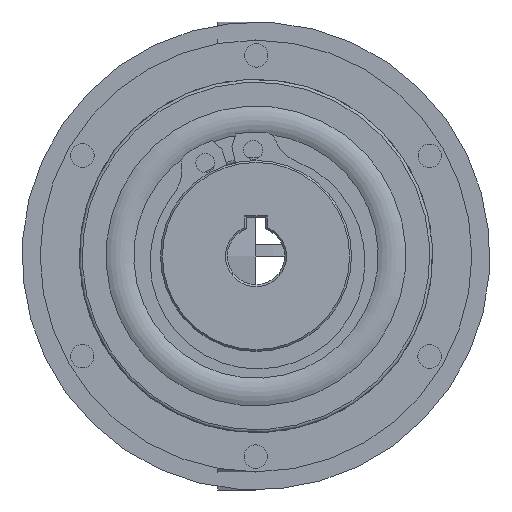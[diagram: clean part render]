
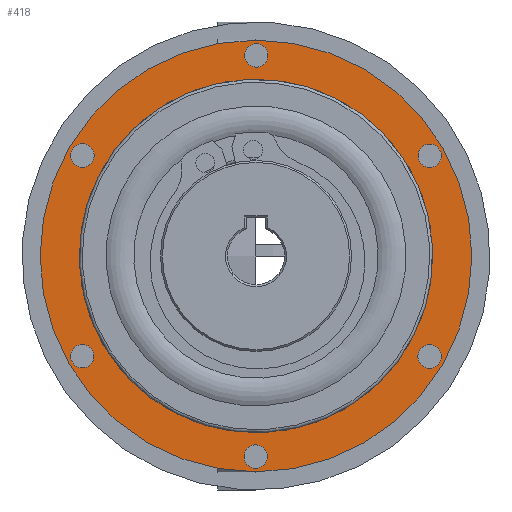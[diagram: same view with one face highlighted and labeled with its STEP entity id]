
A CAD part, left-side view. The second image highlights one B-rep face of the part: STEP entity #418.
In plain terms, the highlighted planar face has unit normal (-1, 0, 0).
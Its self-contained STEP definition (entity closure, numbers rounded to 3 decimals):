
#418 = ADVANCED_FACE( '', ( #691, #692, #693, #694, #695, #696, #697, #698 ), #699, .T. );
#691 = FACE_OUTER_BOUND( '', #955, .T. );
#692 = FACE_BOUND( '', #956, .T. );
#693 = FACE_BOUND( '', #957, .T. );
#694 = FACE_BOUND( '', #958, .T. );
#695 = FACE_BOUND( '', #959, .T. );
#696 = FACE_BOUND( '', #960, .T. );
#697 = FACE_BOUND( '', #961, .T. );
#698 = FACE_BOUND( '', #962, .T. );
#699 = PLANE( '', #963 );
#955 = EDGE_LOOP( '', ( #1485 ) );
#956 = EDGE_LOOP( '', ( #1486 ) );
#957 = EDGE_LOOP( '', ( #1487 ) );
#958 = EDGE_LOOP( '', ( #1488 ) );
#959 = EDGE_LOOP( '', ( #1489 ) );
#960 = EDGE_LOOP( '', ( #1490 ) );
#961 = EDGE_LOOP( '', ( #1491 ) );
#962 = EDGE_LOOP( '', ( #1492 ) );
#963 = AXIS2_PLACEMENT_3D( '', #1493, #1494, #1495 );
#1485 = ORIENTED_EDGE( '', *, *, #1818, .T. );
#1486 = ORIENTED_EDGE( '', *, *, #1826, .T. );
#1487 = ORIENTED_EDGE( '', *, *, #1827, .T. );
#1488 = ORIENTED_EDGE( '', *, *, #1828, .T. );
#1489 = ORIENTED_EDGE( '', *, *, #1824, .T. );
#1490 = ORIENTED_EDGE( '', *, *, #1821, .T. );
#1491 = ORIENTED_EDGE( '', *, *, #1829, .T. );
#1492 = ORIENTED_EDGE( '', *, *, #1823, .F. );
#1493 = CARTESIAN_POINT( '', ( 0., 18.5, 0. ) );
#1494 = DIRECTION( '', ( -1., 0., 0. ) );
#1495 = DIRECTION( '', ( 0., 0., 1. ) );
#1818 = EDGE_CURVE( '', #2051, #2051, #2052, .T. );
#1821 = EDGE_CURVE( '', #2057, #2057, #2058, .T. );
#1823 = EDGE_CURVE( '', #2061, #2061, #2062, .T. );
#1824 = EDGE_CURVE( '', #2063, #2063, #2064, .T. );
#1826 = EDGE_CURVE( '', #2067, #2067, #2068, .T. );
#1827 = EDGE_CURVE( '', #2069, #2069, #2070, .T. );
#1828 = EDGE_CURVE( '', #2071, #2071, #2072, .T. );
#1829 = EDGE_CURVE( '', #2073, #2073, #2074, .T. );
#2051 = VERTEX_POINT( '', #2323 );
#2052 = CIRCLE( '', #2324, 22.6 );
#2057 = VERTEX_POINT( '', #2329 );
#2058 = CIRCLE( '', #2330, 1.23 );
#2061 = VERTEX_POINT( '', #2333 );
#2062 = CIRCLE( '', #2334, 18.5 );
#2063 = VERTEX_POINT( '', #2335 );
#2064 = CIRCLE( '', #2336, 1.23 );
#2067 = VERTEX_POINT( '', #2339 );
#2068 = CIRCLE( '', #2340, 1.23 );
#2069 = VERTEX_POINT( '', #2341 );
#2070 = CIRCLE( '', #2342, 1.23 );
#2071 = VERTEX_POINT( '', #2343 );
#2072 = CIRCLE( '', #2344, 1.23 );
#2073 = VERTEX_POINT( '', #2345 );
#2074 = CIRCLE( '', #2346, 1.23 );
#2323 = CARTESIAN_POINT( '', ( 0., 0., 22.6 ) );
#2324 = AXIS2_PLACEMENT_3D( '', #2610, #2611, #2612 );
#2329 = CARTESIAN_POINT( '', ( 0., 9.435, 18.801 ) );
#2330 = AXIS2_PLACEMENT_3D( '', #2619, #2620, #2621 );
#2333 = CARTESIAN_POINT( '', ( 0., 0., 18.5 ) );
#2334 = AXIS2_PLACEMENT_3D( '', #2625, #2626, #2627 );
#2335 = CARTESIAN_POINT( '', ( 0., -11.565, 17.572 ) );
#2336 = AXIS2_PLACEMENT_3D( '', #2628, #2629, #2630 );
#2339 = CARTESIAN_POINT( '', ( 0., 11.565, -17.572 ) );
#2340 = AXIS2_PLACEMENT_3D( '', #2634, #2635, #2636 );
#2341 = CARTESIAN_POINT( '', ( 0., -9.435, -18.801 ) );
#2342 = AXIS2_PLACEMENT_3D( '', #2637, #2638, #2639 );
#2343 = CARTESIAN_POINT( '', ( 0., -21., -1.23 ) );
#2344 = AXIS2_PLACEMENT_3D( '', #2640, #2641, #2642 );
#2345 = CARTESIAN_POINT( '', ( 0., 21., 1.23 ) );
#2346 = AXIS2_PLACEMENT_3D( '', #2643, #2644, #2645 );
#2610 = CARTESIAN_POINT( '', ( 0., 0., 0. ) );
#2611 = DIRECTION( '', ( -1., 0., 0. ) );
#2612 = DIRECTION( '', ( 0., 0., 1. ) );
#2619 = CARTESIAN_POINT( '', ( 0., 10.5, 18.187 ) );
#2620 = DIRECTION( '', ( 1., 0., 0. ) );
#2621 = DIRECTION( '', ( 0., -0.866, 0.5 ) );
#2625 = CARTESIAN_POINT( '', ( 0., 0., 0. ) );
#2626 = DIRECTION( '', ( -1., 0., 0. ) );
#2627 = DIRECTION( '', ( 0., 0., 1. ) );
#2628 = CARTESIAN_POINT( '', ( 0., -10.5, 18.187 ) );
#2629 = DIRECTION( '', ( 1., 0., 0. ) );
#2630 = DIRECTION( '', ( 0., -0.866, -0.5 ) );
#2634 = CARTESIAN_POINT( '', ( 0., 10.5, -18.187 ) );
#2635 = DIRECTION( '', ( 1., 0., 0. ) );
#2636 = DIRECTION( '', ( 0., 0.866, 0.5 ) );
#2637 = CARTESIAN_POINT( '', ( 0., -10.5, -18.187 ) );
#2638 = DIRECTION( '', ( 1., 0., 0. ) );
#2639 = DIRECTION( '', ( 0., 0.866, -0.5 ) );
#2640 = CARTESIAN_POINT( '', ( 0., -21., 0. ) );
#2641 = DIRECTION( '', ( 1., 0., 0. ) );
#2642 = DIRECTION( '', ( 0., 0., -1. ) );
#2643 = CARTESIAN_POINT( '', ( 0., 21., 0. ) );
#2644 = DIRECTION( '', ( 1., 0., 0. ) );
#2645 = DIRECTION( '', ( 0., 0., 1. ) );
